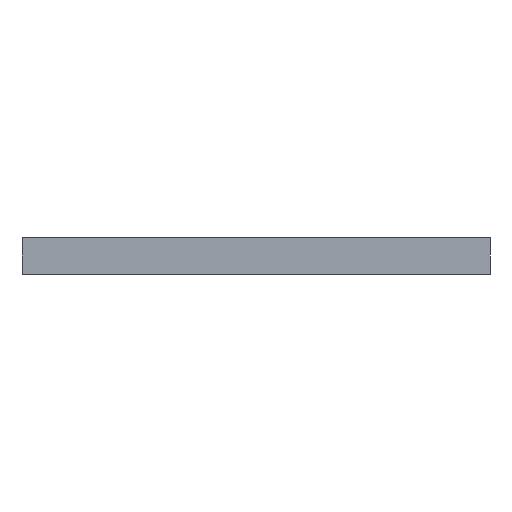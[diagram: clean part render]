
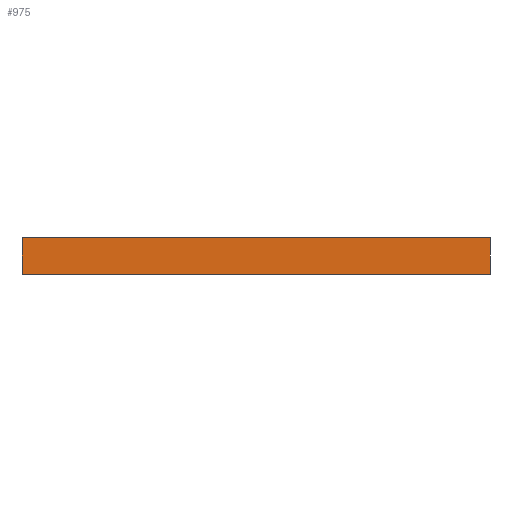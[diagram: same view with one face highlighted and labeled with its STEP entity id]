
A CAD part, front view. The second image highlights one B-rep face of the part: STEP entity #975.
In plain terms, the highlighted planar face has unit normal (0, -1, 0).
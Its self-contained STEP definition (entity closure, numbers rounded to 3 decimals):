
#71=PLANE('',#1069);
#83=FACE_OUTER_BOUND('',#160,.T.);
#160=EDGE_LOOP('',(#696,#697,#698,#699));
#241=LINE('',#1536,#299);
#245=LINE('',#1581,#303);
#246=LINE('',#1584,#304);
#248=LINE('',#1587,#306);
#299=VECTOR('',#1194,10.);
#303=VECTOR('',#1240,10.);
#304=VECTOR('',#1243,10.);
#306=VECTOR('',#1247,10.);
#438=VERTEX_POINT('',#1533);
#439=VERTEX_POINT('',#1535);
#459=VERTEX_POINT('',#1579);
#460=VERTEX_POINT('',#1583);
#525=EDGE_CURVE('',#439,#438,#241,.T.);
#548=EDGE_CURVE('',#438,#459,#245,.T.);
#549=EDGE_CURVE('',#439,#460,#246,.T.);
#551=EDGE_CURVE('',#459,#460,#248,.T.);
#696=ORIENTED_EDGE('',*,*,#548,.T.);
#697=ORIENTED_EDGE('',*,*,#551,.T.);
#698=ORIENTED_EDGE('',*,*,#549,.F.);
#699=ORIENTED_EDGE('',*,*,#525,.T.);
#975=ADVANCED_FACE('',(#83),#71,.F.);
#1069=AXIS2_PLACEMENT_3D('',#1586,#1245,#1246);
#1194=DIRECTION('',(1.,0.,0.));
#1240=DIRECTION('',(0.,0.,1.));
#1243=DIRECTION('',(0.,0.,1.));
#1245=DIRECTION('center_axis',(0.,1.,0.));
#1246=DIRECTION('ref_axis',(0.,0.,
-1.));
#1247=DIRECTION('',(-1.,0.,0.));
#1533=CARTESIAN_POINT('',(36.8,-29.,120.));
#1535=CARTESIAN_POINT('',(-37.8,-29.,120.));
#1536=CARTESIAN_POINT('',(97.5,-29.,120.));
#1579=CARTESIAN_POINT('',(36.8,-29.,125.8));
#1581=CARTESIAN_POINT('',(36.8,-29.,137.062));
#1583=CARTESIAN_POINT('',(-37.8,-29.,125.8));
#1584=CARTESIAN_POINT('',(-37.8,-29.,179.25));
#1586=CARTESIAN_POINT('Origin',(150.,-29.,161.5));
#1587=CARTESIAN_POINT('',(-29.8,-29.,125.8));
